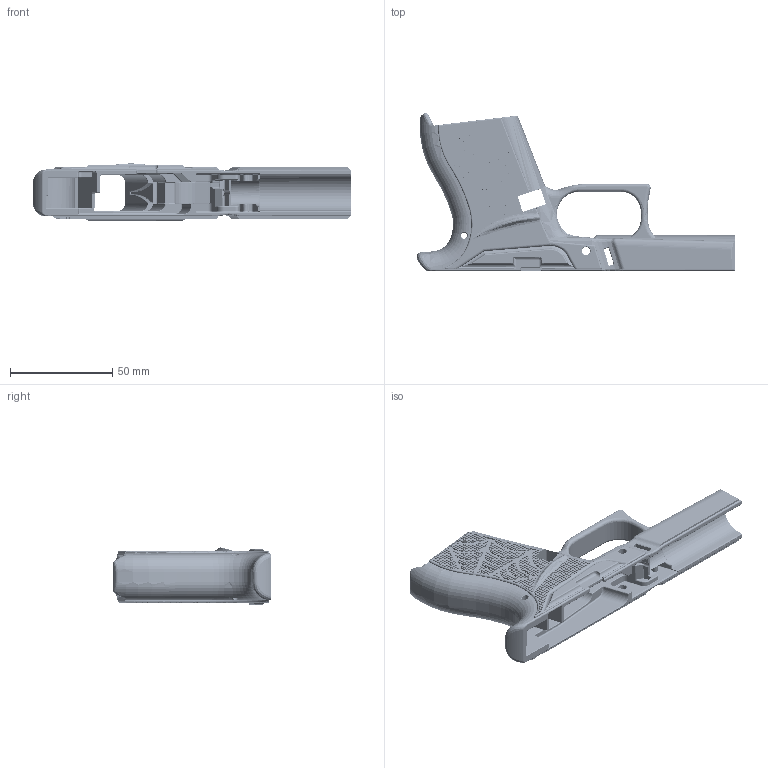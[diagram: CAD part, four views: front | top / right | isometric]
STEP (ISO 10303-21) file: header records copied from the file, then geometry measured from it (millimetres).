
FILE_DESCRIPTION(/* description */ (''),/* implementation_level */ '2;1');
FILE_NAME(/* name */ 'C:/Users/lilys/OneDrive/Desktop/3d printable/G43x/43 Standard Frames/E43 Hallow_Stip v1.step',/* time_stamp */ '2020-10-21T00:37:26-07:00',/* author */ (''),/* organization */ (''),/* preprocessor_version */ 'ST-DEVELOPER v18.1',/* originating_system */ 'Autodesk Translation Framework v9.3.0.1241',/* authorisation */ '');
FILE_SCHEMA (('AUTOMOTIVE_DESIGN { 1 0 10303 214 3 1 1 }'));
Length unit declared in the file: millimetre
Products named in the file (1): E43 Hallow_Stip
Bounding box: 155.83 x 77.16 x 27.91 mm (x, y, z)
Volume: 57790.6 mm3; surface area: 36425.3 mm2
Topology: 1 solids, 1 shells, 5699 faces, 13316 edges, 8532 vertices
Faces by surface type: plane 2113, cylinder 2076, bspline 1369, torus 105, sphere 20, cone 16
Full cylindrical faces by diameter (mm): 1.2 x909, 3 x2, 3.5 x1, 4 x2
Entity records: 206421 total; most frequent: CARTESIAN_POINT 87561, ORIENTED_EDGE 26542, DIRECTION 21879, EDGE_CURVE 13271, AXIS2_PLACEMENT_3D 8728, VERTEX_POINT 8531, EDGE_LOOP 6676, FACE_OUTER_BOUND 5698
